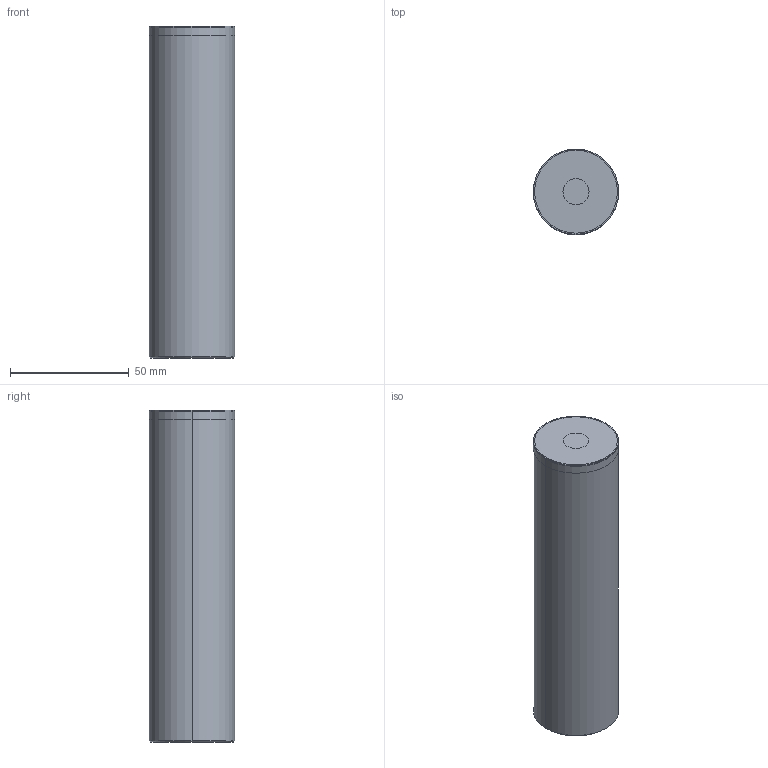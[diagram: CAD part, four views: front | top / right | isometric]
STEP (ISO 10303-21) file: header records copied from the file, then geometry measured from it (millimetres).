
FILE_DESCRIPTION (( 'STEP AP214' ), '1' );
FILE_NAME ('BruyRubio_BRSP_36_X_140.STEP', '2020-01-15T09:36:25', ( '' ), ( '' ), 'SwSTEP 2.0', 'SolidWorks 2017', '' );
FILE_SCHEMA (( 'AUTOMOTIVE_DESIGN' ));
Length unit declared in the file: millimetre
Products named in the file (3): BruyRubio_BRSP_36_X_140; Einbauraum_af15e6; BRSP 36 X 140_1351ee
Assembly tree (2 placements, depth 2):
  BruyRubio_BRSP_36_X_140
    Einbauraum_af15e6
    BRSP 36 X 140_1351ee
Bounding box: 36 x 36 x 140.07 mm (x, y, z)
Volume: 131359 mm3; surface area: 25177.8 mm2
Topology: 2 solids, 2 shells, 17 faces, 32 edges, 20 vertices
Faces by surface type: cylinder 8, plane 5, cone 4
Entity records: 735 total; most frequent: DIRECTION 96, CARTESIAN_POINT 74, ORIENTED_EDGE 64, AXIS2_PLACEMENT_3D 42, EDGE_CURVE 32, UNCERTAINTY_MEASURE_WITH_UNIT 24, MECHANICAL_DESIGN_GEOMETRIC_PRESENTATION_REPRESENTATION 21, COLOUR_RGB 21
